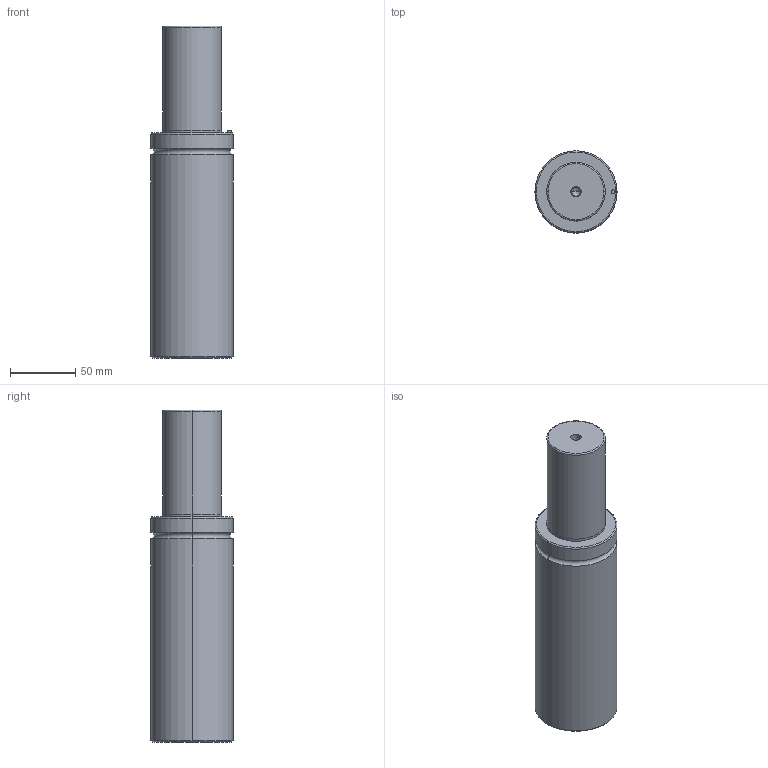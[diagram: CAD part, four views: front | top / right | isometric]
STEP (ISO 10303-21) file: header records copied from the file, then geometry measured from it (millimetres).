
FILE_DESCRIPTION(/* description */ (''),/* implementation_level */ '2;1');
FILE_NAME(/* name */ '3d_gsm63-80_03899_r00.stp',/* time_stamp */ '2011-01-10T14:15:14+09:00',/* author */ ('MISUMI'),/* organization */ (''),/* preprocessor_version */ 'ST-DEVELOPER v11',/* originating_system */ 'UGS - NX 5.0',/* authorisation */ '');
FILE_SCHEMA (('CONFIG_CONTROL_DESIGN'));
Length unit declared in the file: millimetre
Products named in the file (1): 3d_gsm63-80_03899_r00
Bounding box: 63 x 63 x 255 mm (x, y, z)
Volume: 664793 mm3; surface area: 53751.6 mm2
Topology: 1 solids, 1 shells, 50 faces, 106 edges, 60 vertices
Faces by surface type: cylinder 26, cone 10, plane 8, torus 6
Entity records: 1382 total; most frequent: DIRECTION 262, CARTESIAN_POINT 209, ORIENTED_EDGE 196, AXIS2_PLACEMENT_3D 113, EDGE_CURVE 98, CIRCLE 62, EDGE_LOOP 60, VERTEX_POINT 60
